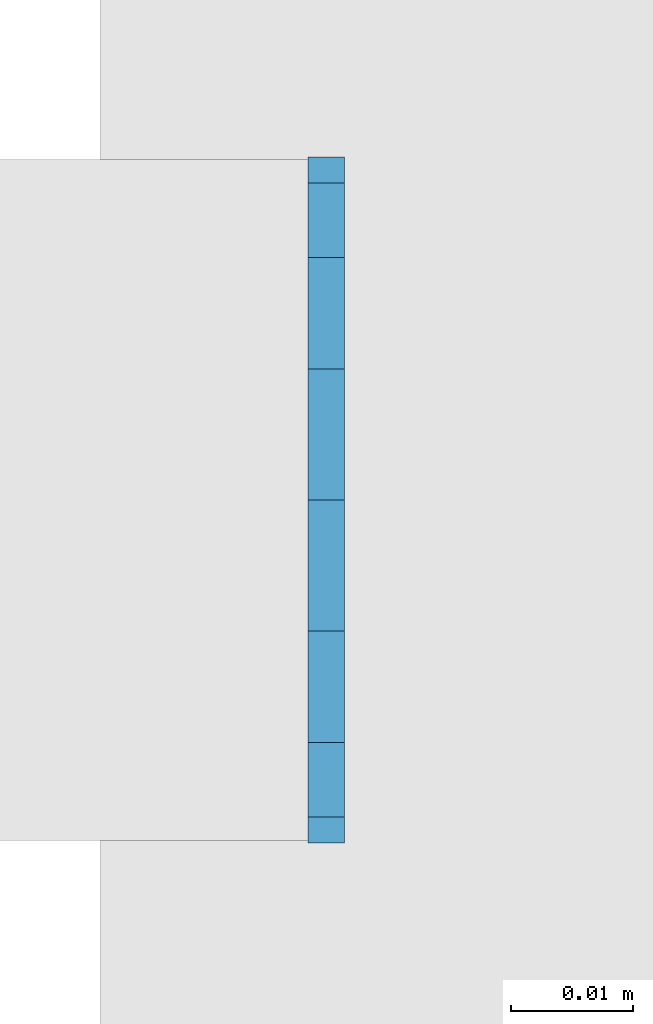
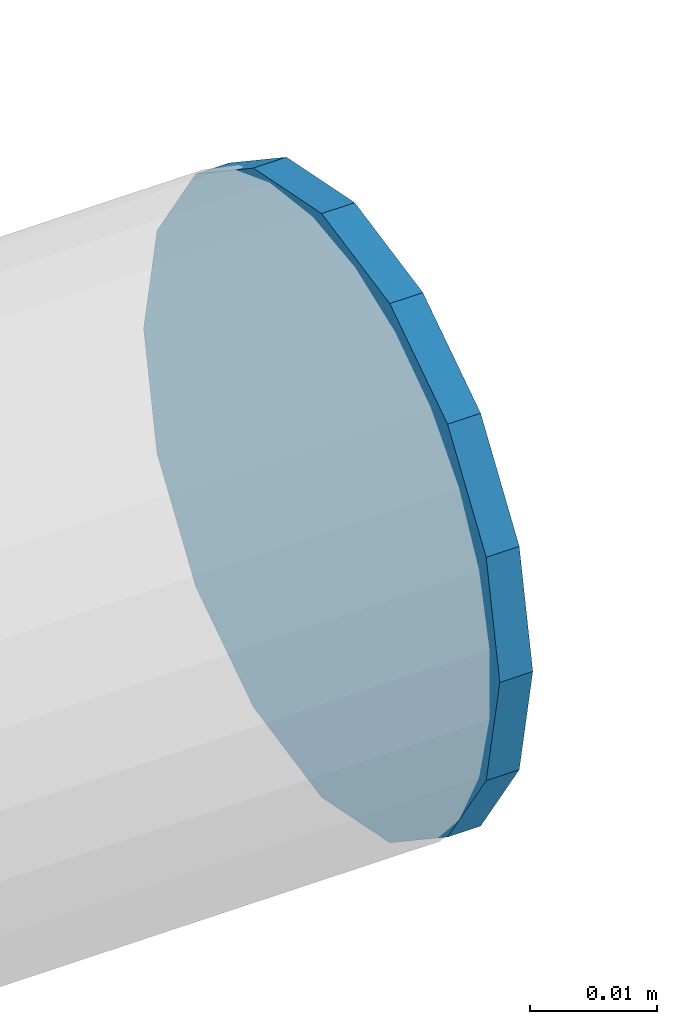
# One storey, part 67 of 186: 1 beam.
"""IFC4X3_ADD2 building model written with IfcOpenShell, lengths in millimetres."""

from ifc_helpers import new_model, si_unit, direction, frame, origin_with_axes, place, context, subcontext, project, spatial, indexed_curve, outline, extrude, material, element, save


model = new_model("IFC4X3_ADD2")

# Units and contexts
model_context = context("Model", 3, precision=1e-05, world=origin_with_axes(), true_north=direction((0.0, 1.0)))
body_context = subcontext(model_context, "Body", "Model", "MODEL_VIEW")
ifc_project = project(units=[si_unit("LENGTHUNIT", "METRE", prefix="MILLI"), si_unit("AREAUNIT", "SQUARE_METRE"), si_unit("VOLUMEUNIT", "CUBIC_METRE"), si_unit("PLANEANGLEUNIT", "RADIAN"), si_unit("TIMEUNIT", "SECOND"), si_unit("MASSUNIT", "GRAM")], contexts=[model_context])

# Site, building, storey
site_placement = place(None, origin_with_axes())
site = spatial("IfcSite", under=ifc_project, at=site_placement, Name="Site", CompositionType="ELEMENT")
building_placement = place(site_placement, origin_with_axes())
building = spatial("IfcBuilding", under=site, at=building_placement, Name="IFC Building Story")
storey_placement = place(building_placement, frame((0.0, 0.0, 4370.0), z_axis=(0.0, 0.0, 1.0), x_axis=(1.0, 0.0, 0.0)))
storey = spatial("IfcBuildingStorey", under=building, at=storey_placement, Name="ETAGE 10 (1)", Elevation=4370.0)

# Beam
ifc_material = material(Name="STEEL/Accessory 22919")
beam_placement = place(storey_placement, frame((27951.1886362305, 349.999963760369, 1346.422), z_axis=(-1.0, 0.0, 0.0), x_axis=(0.0, 0.5555702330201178, 0.8314696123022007)))
element("IfcBeam", 1, at=beam_placement, inside=storey, material=ifc_material, Name="TA4", ObjectType="D56", context=body_context, shape_type="SweptSolid", body=[
    extrude(outline(indexed_curve([(23.28114914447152, 15.55596652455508), (27.46198785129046, 5.462529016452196), (27.46198785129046, -5.462529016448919), (23.28114914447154, -15.55596652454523), (15.55596652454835, -23.28114914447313), (5.462529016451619, -27.46198785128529), (-5.462529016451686, -27.46198785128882), (-15.55596652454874, -23.28114914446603), (-23.2811491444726, -15.55596652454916), (-27.46198785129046, -5.462529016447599), (-27.46198785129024, 5.462529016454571), (-23.28114914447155, 15.55596652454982), (-15.55596652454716, 23.28114914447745), (-5.462529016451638, 27.46198785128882), (5.462529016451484, 27.46198785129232), (15.55596652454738, 23.28114914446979), (23.28114914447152, 15.55596652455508)])), origin_with_axes(), (0.0, 0.0, 1.0), 3.0),
])

save(model, "model.ifc")
